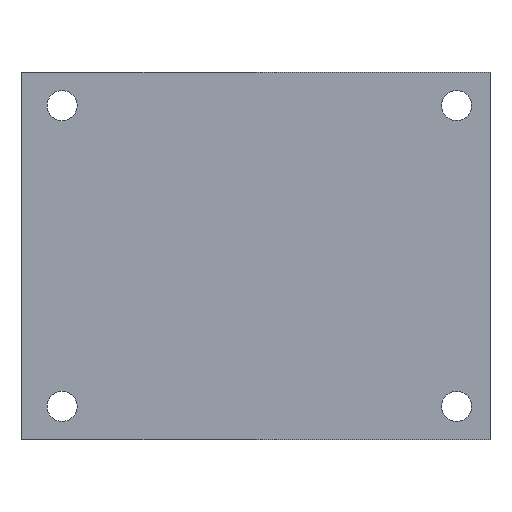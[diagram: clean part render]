
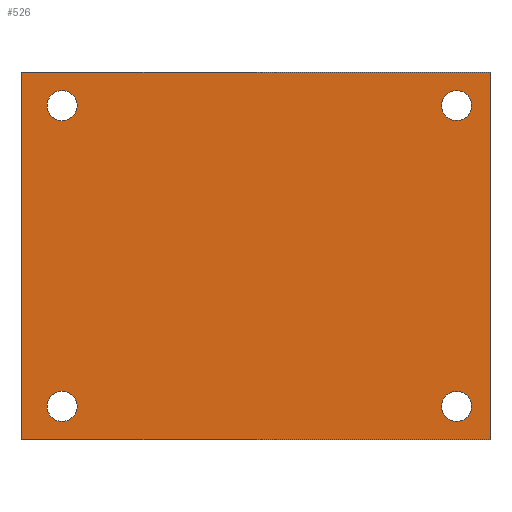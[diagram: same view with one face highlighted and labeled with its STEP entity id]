
A CAD part, front view. The second image highlights one B-rep face of the part: STEP entity #526.
In plain terms, the highlighted planar face has unit normal (0, -1, 0).
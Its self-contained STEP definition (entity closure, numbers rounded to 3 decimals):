
#526=ADVANCED_FACE('',(#941,#942,#943,#944,#945),#946,.F.);
#941=FACE_OUTER_BOUND('',#1374,.T.);
#942=FACE_BOUND('',#1375,.T.);
#943=FACE_BOUND('',#1376,.T.);
#944=FACE_BOUND('',#1377,.T.);
#945=FACE_BOUND('',#1378,.T.);
#946=PLANE('',#1379);
#1374=EDGE_LOOP('',(#2759,#2760,#2761,#2762));
#1375=EDGE_LOOP('',(#2763));
#1376=EDGE_LOOP('',(#2764));
#1377=EDGE_LOOP('',(#2765));
#1378=EDGE_LOOP('',(#2766));
#1379=AXIS2_PLACEMENT_3D('',#2767,#2768,#2769);
#2759=ORIENTED_EDGE('',*,*,#3222,.T.);
#2760=ORIENTED_EDGE('',*,*,#3214,.F.);
#2761=ORIENTED_EDGE('',*,*,#3219,.F.);
#2762=ORIENTED_EDGE('',*,*,#3231,.T.);
#2763=ORIENTED_EDGE('',*,*,#3232,.F.);
#2764=ORIENTED_EDGE('',*,*,#3233,.F.);
#2765=ORIENTED_EDGE('',*,*,#3234,.F.);
#2766=ORIENTED_EDGE('',*,*,#3235,.F.);
#2767=CARTESIAN_POINT('',(0.0,0.0,27.5));
#2768=DIRECTION('',(-0.0,1.0,0.0));
#2769=DIRECTION('',(1.0,0.0,0.0));
#3214=EDGE_CURVE('',#3929,#3924,#3931,.T.);
#3219=EDGE_CURVE('',#3938,#3929,#3940,.T.);
#3222=EDGE_CURVE('',#3945,#3924,#3946,.T.);
#3231=EDGE_CURVE('',#3938,#3945,#3961,.T.);
#3232=EDGE_CURVE('',#3962,#3962,#3963,.T.);
#3233=EDGE_CURVE('',#3964,#3964,#3965,.T.);
#3234=EDGE_CURVE('',#3966,#3966,#3967,.T.);
#3235=EDGE_CURVE('',#3968,#3968,#3969,.T.);
#3924=VERTEX_POINT('',#5080);
#3929=VERTEX_POINT('',#5087);
#3931=LINE('',#5090,#5091);
#3938=VERTEX_POINT('',#5099);
#3940=LINE('',#5102,#5103);
#3945=VERTEX_POINT('',#5109);
#3946=LINE('',#5110,#5111);
#3961=LINE('',#5128,#5129);
#3962=VERTEX_POINT('',#5130);
#3963=CIRCLE('',#5131,2.25);
#3964=VERTEX_POINT('',#5132);
#3965=CIRCLE('',#5133,2.25);
#3966=VERTEX_POINT('',#5134);
#3967=CIRCLE('',#5135,2.25);
#3968=VERTEX_POINT('',#5136);
#3969=CIRCLE('',#5137,2.25);
#5080=CARTESIAN_POINT('',(70.0,0.0,-27.5));
#5087=CARTESIAN_POINT('',(70.0,0.0,27.5));
#5090=CARTESIAN_POINT('',(70.0,0.0,27.5));
#5091=VECTOR('',#5712,1.0);
#5099=CARTESIAN_POINT('',(0.0,0.0,27.5));
#5102=CARTESIAN_POINT('',(0.0,0.0,27.5));
#5103=VECTOR('',#5721,1.0);
#5109=CARTESIAN_POINT('',(0.0,0.0,-27.5));
#5110=CARTESIAN_POINT('',(0.0,0.0,-27.5));
#5111=VECTOR('',#5726,1.0);
#5128=CARTESIAN_POINT('',(0.0,0.0,27.5));
#5129=VECTOR('',#5747,1.0);
#5130=CARTESIAN_POINT('',(6.0,0.0,24.75));
#5131=AXIS2_PLACEMENT_3D('',#5748,#5749,#5750);
#5132=CARTESIAN_POINT('',(65.0,0.0,-20.25));
#5133=AXIS2_PLACEMENT_3D('',#5751,#5752,#5753);
#5134=CARTESIAN_POINT('',(6.0,0.0,-20.25));
#5135=AXIS2_PLACEMENT_3D('',#5754,#5755,#5756);
#5136=CARTESIAN_POINT('',(65.0,0.0,24.75));
#5137=AXIS2_PLACEMENT_3D('',#5757,#5758,#5759);
#5712=DIRECTION('',(0.0,0.0,-1.0));
#5721=DIRECTION('',(1.0,0.0,0.0));
#5726=DIRECTION('',(1.0,0.0,0.0));
#5747=DIRECTION('',(0.0,0.0,-1.0));
#5748=CARTESIAN_POINT('',(6.0,0.0,22.5));
#5749=DIRECTION('',(0.0,-1.0,0.0));
#5750=DIRECTION('',(0.0,0.0,1.0));
#5751=CARTESIAN_POINT('',(65.0,0.0,-22.5));
#5752=DIRECTION('',(0.0,-1.0,0.0));
#5753=DIRECTION('',(0.0,0.0,1.0));
#5754=CARTESIAN_POINT('',(6.0,0.0,-22.5));
#5755=DIRECTION('',(0.0,-1.0,0.0));
#5756=DIRECTION('',(0.0,0.0,1.0));
#5757=CARTESIAN_POINT('',(65.0,0.0,22.5));
#5758=DIRECTION('',(0.0,-1.0,0.0));
#5759=DIRECTION('',(0.0,0.0,1.0));
